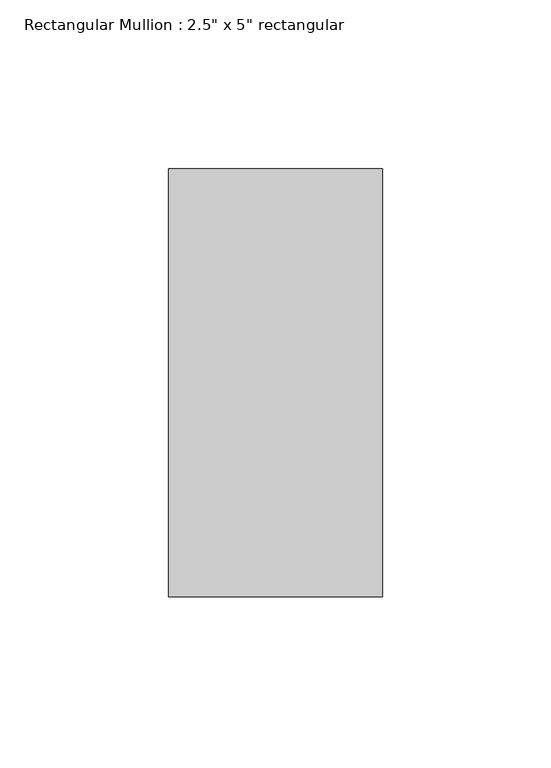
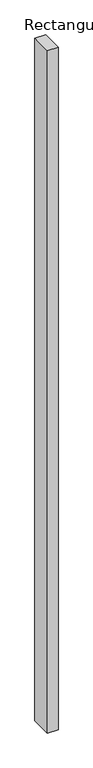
"""IFC4 building model written with IfcOpenShell, lengths in millimetres: member geometry."""

from ifc_helpers import new_model, si_unit, frame, origin, place, context, project, spatial, polyline, outline, extrude, source, transform, mapped, element, save


def member_45b72dba(model_context):
    return source(origin(), model_context, "Body", "SweptSolid", [
        extrude(outline(polyline([(0.0, 63.5), (0.0, -63.5), (-63.5, -63.5), (-63.5, 63.5), (0.0, 63.5)])), frame((0.0, 0.0, -4267.2), z_axis=(0.0, 0.0, 1.0), x_axis=(1.0, 0.0, 0.0)), (0.0, 0.0, 1.0), 4267.2),
    ])


if __name__ == "__main__":
    model = new_model("IFC4")
    model_context = context("Model", 3, world=origin())
    ifc_project = project(units=[si_unit("LENGTHUNIT", "METRE", prefix="MILLI")], contexts=[model_context])
    site = spatial("IfcSite", under=ifc_project)
    building = spatial("IfcBuilding", under=site)
    placement = place(None, origin())
    member_shape = member_45b72dba(model_context)
    element("IfcMember", 1, ObjectType="Rectangular Mullion : 2.5\" x 5\" rectangular", at=placement, inside=building, context=model_context, shape_type="MappedRepresentation", body=[
        mapped(member_shape, transform((0.0, 0.0, 0.0), x_axis=(1.0, 0.0, 0.0), y_axis=(0.0, 1.0, 0.0), z_axis=(0.0, 0.0, 1.0))),
    ])
    save(model, "model.ifc")
